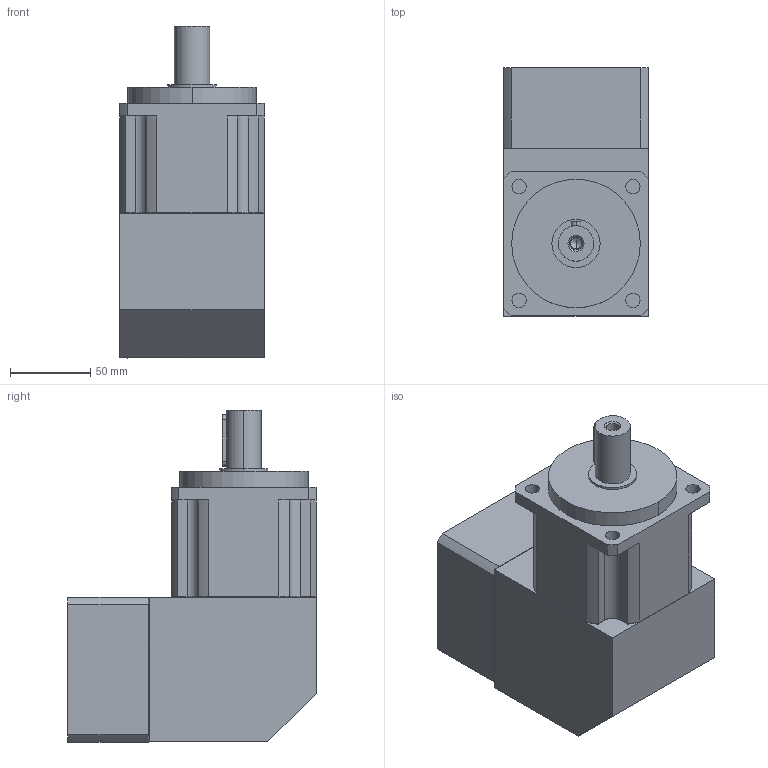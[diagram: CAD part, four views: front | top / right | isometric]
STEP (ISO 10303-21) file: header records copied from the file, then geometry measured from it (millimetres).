
FILE_DESCRIPTION (( 'STEP AP203' ), '1' );
FILE_NAME ('IBR090L1-i-P2-S2-19-40-70-90-M6.STEP', '2016-01-04T12:56:37', ( 'User' ), ( 'china' ), 'SwSTEP 2.0', 'SolidWorks 2014', '' );
FILE_SCHEMA (( 'CONFIG_CONTROL_DESIGN' ));
Length unit declared in the file: millimetre
Products named in the file (1): IBR090L1-i-P2-S2-19-40-70-90-M6
Bounding box: 90 x 154.5 x 206.6 mm (x, y, z)
Volume: 1725363.9 mm3; surface area: 104645.9 mm2
Topology: 1 solids, 1 shells, 150 faces, 360 edges, 219 vertices
Faces by surface type: cylinder 77, plane 49, cone 12, bspline 12
Entity records: 5190 total; most frequent: CARTESIAN_POINT 1673, DIRECTION 730, ORIENTED_EDGE 700, EDGE_CURVE 350, AXIS2_PLACEMENT_3D 276, VERTEX_POINT 219, LINE 178, VECTOR 178
